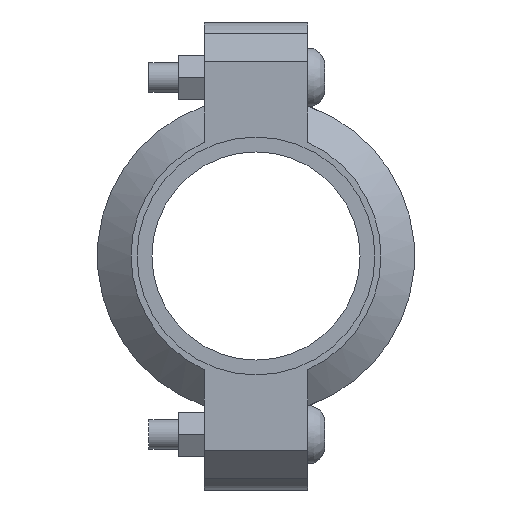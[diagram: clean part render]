
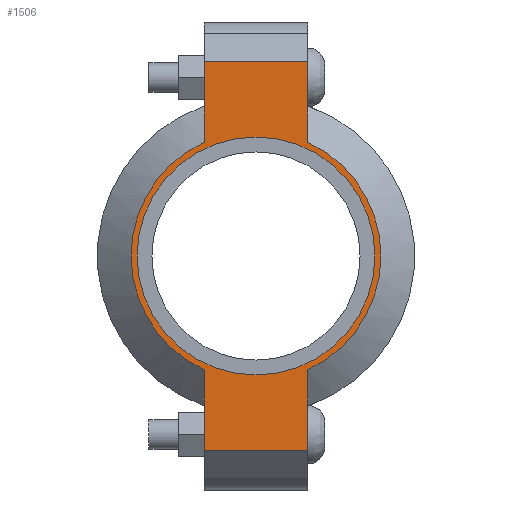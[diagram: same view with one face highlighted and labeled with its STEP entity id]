
A CAD part, left-side view. The second image highlights one B-rep face of the part: STEP entity #1506.
In plain terms, the highlighted planar face has unit normal (-1, 0, 0) as drawn and (0, 0, 1) by its records, which use the part's own axes.
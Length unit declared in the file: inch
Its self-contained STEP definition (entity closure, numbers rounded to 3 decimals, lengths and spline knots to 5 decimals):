
#168=LINE('',#2627,#261);
#181=LINE('',#2671,#274);
#186=LINE('',#2695,#279);
#193=LINE('',#2713,#286);
#200=LINE('',#2738,#293);
#201=LINE('',#2741,#294);
#261=VECTOR('',#2099,0.3937);
#274=VECTOR('',#2128,0.3937);
#279=VECTOR('',#2139,0.3937);
#286=VECTOR('',#2156,0.3937);
#293=VECTOR('',#2177,0.3937);
#294=VECTOR('',#2182,0.3937);
#342=FACE_BOUND('',#502,.T.);
#407=FACE_OUTER_BOUND('',#501,.T.);
#501=EDGE_LOOP('',(#1255,#1256,#1257,#1258,#1259,#1260,#1261,#1262));
#502=EDGE_LOOP('',(#1263));
#598=CIRCLE('',#1769,1.575);
#599=CIRCLE('',#1770,1.575);
#600=CIRCLE('',#1771,1.5);
#701=VERTEX_POINT('',#2622);
#702=VERTEX_POINT('',#2626);
#718=VERTEX_POINT('',#2668);
#719=VERTEX_POINT('',#2670);
#725=VERTEX_POINT('',#2690);
#726=VERTEX_POINT('',#2694);
#731=VERTEX_POINT('',#2710);
#732=VERTEX_POINT('',#2712);
#738=VERTEX_POINT('',#2743);
#868=EDGE_CURVE('',#702,#701,#168,.T.);
#888=EDGE_CURVE('',#719,#718,#181,.T.);
#897=EDGE_CURVE('',#726,#725,#186,.T.);
#906=EDGE_CURVE('',#732,#731,#193,.T.);
#918=EDGE_CURVE('',#726,#718,#200,.T.);
#919=EDGE_CURVE('',#725,#732,#598,.T.);
#920=EDGE_CURVE('',#702,#731,#201,.T.);
#921=EDGE_CURVE('',#701,#719,#599,.T.);
#922=EDGE_CURVE('',#738,#738,#600,.T.);
#1255=ORIENTED_EDGE('',*,*,#918,.F.);
#1256=ORIENTED_EDGE('',*,*,#897,.T.);
#1257=ORIENTED_EDGE('',*,*,#919,.T.);
#1258=ORIENTED_EDGE('',*,*,#906,.T.);
#1259=ORIENTED_EDGE('',*,*,#920,.F.);
#1260=ORIENTED_EDGE('',*,*,#868,.T.);
#1261=ORIENTED_EDGE('',*,*,#921,.T.);
#1262=ORIENTED_EDGE('',*,*,#888,.T.);
#1263=ORIENTED_EDGE('',*,*,#922,.T.);
#1359=PLANE('',#1768);
#1506=ADVANCED_FACE('',(#407,#342),#1359,.T.);
#1768=AXIS2_PLACEMENT_3D('',#2739,#2178,#2179);
#1769=AXIS2_PLACEMENT_3D('',#2740,#2180,#2181);
#1770=AXIS2_PLACEMENT_3D('',#2742,#2183,#2184);
#1771=AXIS2_PLACEMENT_3D('',#2744,#2185,#2186);
#2099=DIRECTION('',(1.,0.,0.));
#2128=DIRECTION('',(1.,0.,0.));
#2139=DIRECTION('',(-1.,0.,0.));
#2156=DIRECTION('',(-1.,0.,0.));
#2177=DIRECTION('',(0.,-1.,0.));
#2178=DIRECTION('center_axis',(0.,0.,1.));
#2179=DIRECTION('ref_axis',(-1.,0.,0.));
#2180=DIRECTION('center_axis',(0.,0.,1.));
#2181=DIRECTION('ref_axis',(1.,0.,0.));
#2182=DIRECTION('',(0.,1.,0.));
#2183=DIRECTION('center_axis',(0.,0.,1.));
#2184=DIRECTION('ref_axis',(1.,0.,0.));
#2185=DIRECTION('center_axis',(0.,0.,-1.));
#2186=DIRECTION('ref_axis',(1.,0.,0.));
#2622=CARTESIAN_POINT('',(-1.43462,-0.65,0.94));
#2626=CARTESIAN_POINT('',(-2.45,-0.65,0.94));
#2627=CARTESIAN_POINT('',(2.95,-0.65,0.94));
#2668=CARTESIAN_POINT('',(2.45,-0.65,0.94));
#2670=CARTESIAN_POINT('',(1.43462,-0.65,0.94));
#2671=CARTESIAN_POINT('',(2.95,-0.65,0.94));
#2690=CARTESIAN_POINT('',(1.43462,0.65,0.94));
#2694=CARTESIAN_POINT('',(2.45,0.65,0.94));
#2695=CARTESIAN_POINT('',(-2.95,0.65,0.94));
#2710=CARTESIAN_POINT('',(-2.45,0.65,0.94));
#2712=CARTESIAN_POINT('',(-1.43462,0.65,0.94));
#2713=CARTESIAN_POINT('',(-2.95,0.65,0.94));
#2738=CARTESIAN_POINT('',(2.45,-0.325,0.94));
#2739=CARTESIAN_POINT('Origin',(0.,0.,
0.94));
#2740=CARTESIAN_POINT('Origin',(0.,0.,0.94));
#2741=CARTESIAN_POINT('',(-2.45,0.325,0.94));
#2742=CARTESIAN_POINT('Origin',(0.,0.,0.94));
#2743=CARTESIAN_POINT('',(-1.5,0.,0.94));
#2744=CARTESIAN_POINT('Origin',(0.,0.,0.94));
